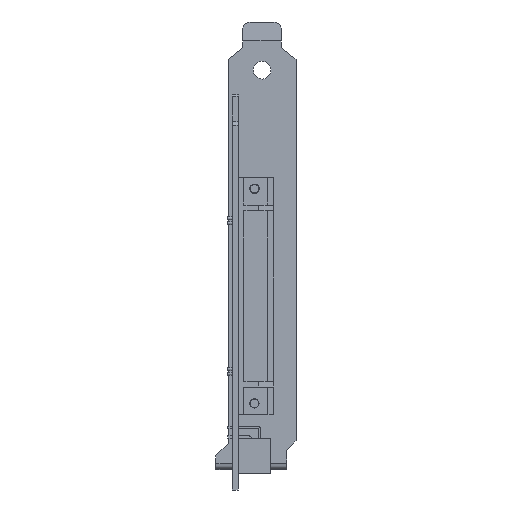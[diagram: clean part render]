
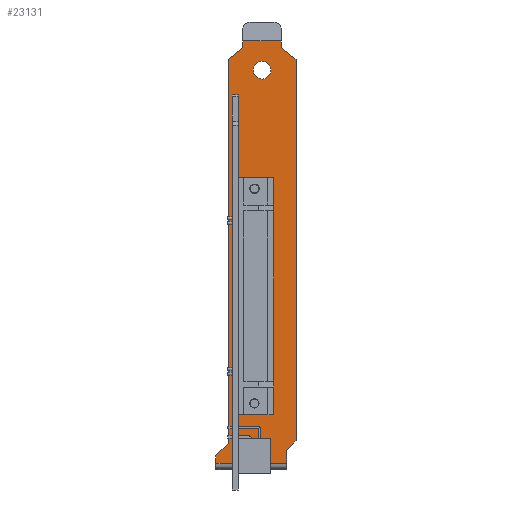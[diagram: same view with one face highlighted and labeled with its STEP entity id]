
A CAD part, front view. The second image highlights one B-rep face of the part: STEP entity #23131.
In plain terms, the highlighted planar face has unit normal (0, -1, 0).
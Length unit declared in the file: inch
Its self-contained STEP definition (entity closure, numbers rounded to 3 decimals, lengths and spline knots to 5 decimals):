
#85=DIRECTION('',(-1.,0.,0.));
#86=VECTOR('',#85,0.40551);
#87=CARTESIAN_POINT('',(0.43602,0.33,-3.203));
#88=LINE('',#87,#86);
#338=DIRECTION('',(1.,0.,0.));
#339=VECTOR('',#338,0.40551);
#340=CARTESIAN_POINT('',(0.0305,0.33,-0.687));
#341=LINE('',#340,#339);
#7335=DIRECTION('',(0.,0.,1.));
#7336=VECTOR('',#7335,2.516);
#7337=CARTESIAN_POINT('',(0.0305,0.33,-3.203));
#7338=LINE('',#7337,#7336);
#7339=DIRECTION('',(1.,0.,0.));
#7340=VECTOR('',#7339,0.412);
#7341=CARTESIAN_POINT('',(0.108,0.33,0.764));
#7342=LINE('',#7341,#7340);
#7343=DIRECTION('',(0.,0.,-1.));
#7344=VECTOR('',#7343,0.074);
#7345=CARTESIAN_POINT('',(0.52,0.33,0.764));
#7346=LINE('',#7345,#7344);
#7347=DIRECTION('',(-0.788,0.,0.616));
#7348=VECTOR('',#7347,0.1967);
#7349=CARTESIAN_POINT('',(0.675,0.33,0.5689));
#7350=LINE('',#7349,#7348);
#7351=DIRECTION('',(0.707,0.,0.707));
#7352=VECTOR('',#7351,0.14142);
#7353=CARTESIAN_POINT('',(0.575,0.33,-3.583));
#7354=LINE('',#7353,#7352);
#7355=DIRECTION('',(0.,0.,1.));
#7356=VECTOR('',#7355,0.137);
#7357=CARTESIAN_POINT('',(0.575,0.33,-3.72));
#7358=LINE('',#7357,#7356);
#7359=DIRECTION('',(-1.,0.,0.));
#7360=VECTOR('',#7359,0.75);
#7361=CARTESIAN_POINT('',(0.575,0.33,-3.72));
#7362=LINE('',#7361,#7360);
#7363=DIRECTION('',(-0.707,0.,-0.707));
#7364=VECTOR('',#7363,0.18102);
#7365=CARTESIAN_POINT('',(-0.047,0.33,-3.514));
#7366=LINE('',#7365,#7364);
#7367=DIRECTION('',(0.,0.,-1.));
#7368=VECTOR('',#7367,4.0829);
#7369=CARTESIAN_POINT('',(-0.047,0.33,0.5689));
#7370=LINE('',#7369,#7368);
#7371=DIRECTION('',(-0.788,0.,-0.616));
#7372=VECTOR('',#7371,0.1967);
#7373=CARTESIAN_POINT('',(0.108,0.33,0.69));
#7374=LINE('',#7373,#7372);
#7375=DIRECTION('',(0.,0.,-1.));
#7376=VECTOR('',#7375,0.074);
#7377=CARTESIAN_POINT('',(0.108,0.33,0.764));
#7378=LINE('',#7377,#7376);
#7379=CARTESIAN_POINT('',(0.314,0.33,0.453));
#7380=DIRECTION('',(0.,1.,0.));
#7381=DIRECTION('',(0.,0.,1.));
#7382=AXIS2_PLACEMENT_3D('',#7379,#7380,#7381);
#7384=CARTESIAN_POINT('',(0.314,0.33,0.453));
#7385=DIRECTION('',(0.,1.,0.));
#7386=DIRECTION('',(0.,0.,-1.));
#7387=AXIS2_PLACEMENT_3D('',#7384,#7385,#7386);
#7435=DIRECTION('',(0.,0.,1.));
#7436=VECTOR('',#7435,0.078);
#7437=CARTESIAN_POINT('',(-0.175,0.33,-3.72));
#7438=LINE('',#7437,#7436);
#7787=DIRECTION('',(0.,0.,1.));
#7788=VECTOR('',#7787,4.0519);
#7789=CARTESIAN_POINT('',(0.675,0.33,-3.483));
#7790=LINE('',#7789,#7788);
#8914=DIRECTION('',(0.,0.,1.));
#8915=VECTOR('',#8914,2.516);
#8916=CARTESIAN_POINT('',(0.43602,0.33,-3.203));
#8917=LINE('',#8916,#8915);
#10958=CARTESIAN_POINT('',(-0.175,0.33,-3.72));
#10960=VERTEX_POINT('',#10958);
#10961=CARTESIAN_POINT('',(0.575,0.33,-3.72));
#10963=VERTEX_POINT('',#10961);
#10965=CARTESIAN_POINT('',(0.575,0.33,-3.583));
#10966=VERTEX_POINT('',#10965);
#10967=CARTESIAN_POINT('',(0.675,0.33,-3.483));
#10968=VERTEX_POINT('',#10967);
#10969=CARTESIAN_POINT('',(0.108,0.33,0.69));
#10970=CARTESIAN_POINT('',(-0.047,0.33,0.5689));
#10971=VERTEX_POINT('',#10969);
#10972=VERTEX_POINT('',#10970);
#10973=CARTESIAN_POINT('',(-0.047,0.33,-3.514));
#10974=VERTEX_POINT('',#10973);
#10975=CARTESIAN_POINT('',(-0.175,0.33,-3.642));
#10976=VERTEX_POINT('',#10975);
#10977=CARTESIAN_POINT('',(0.675,0.33,0.5689));
#10978=CARTESIAN_POINT('',(0.52,0.33,0.69));
#10979=VERTEX_POINT('',#10977);
#10980=VERTEX_POINT('',#10978);
#11089=CARTESIAN_POINT('',(0.314,0.33,0.5465));
#11090=CARTESIAN_POINT('',(0.314,0.33,0.3595));
#11091=VERTEX_POINT('',#11089);
#11092=VERTEX_POINT('',#11090);
#11093=CARTESIAN_POINT('',(0.108,0.33,0.764));
#11094=VERTEX_POINT('',#11093);
#11095=CARTESIAN_POINT('',(0.52,0.33,0.764));
#11096=VERTEX_POINT('',#11095);
#11141=CARTESIAN_POINT('',(0.0305,0.33,-0.687));
#11142=CARTESIAN_POINT('',(0.43602,0.33,-0.687));
#11143=VERTEX_POINT('',#11141);
#11144=VERTEX_POINT('',#11142);
#11145=CARTESIAN_POINT('',(0.43602,0.33,-3.203));
#11146=CARTESIAN_POINT('',(0.0305,0.33,-3.203));
#11147=VERTEX_POINT('',#11145);
#11148=VERTEX_POINT('',#11146);
#23087=CARTESIAN_POINT('',(0.675,0.33,-3.72));
#23088=DIRECTION('',(0.,1.,0.));
#23089=DIRECTION('',(0.,0.,1.));
#23090=AXIS2_PLACEMENT_3D('',#23087,#23088,#23089);
#23091=PLANE('',#23090);
#23093=ORIENTED_EDGE('',*,*,#23092,.T.);
#23095=ORIENTED_EDGE('',*,*,#23094,.T.);
#23097=ORIENTED_EDGE('',*,*,#23096,.F.);
#23099=ORIENTED_EDGE('',*,*,#23098,.F.);
#23101=ORIENTED_EDGE('',*,*,#23100,.F.);
#23103=ORIENTED_EDGE('',*,*,#23102,.F.);
#23105=ORIENTED_EDGE('',*,*,#23104,.T.);
#23107=ORIENTED_EDGE('',*,*,#23106,.T.);
#23109=ORIENTED_EDGE('',*,*,#23108,.F.);
#23111=ORIENTED_EDGE('',*,*,#23110,.F.);
#23113=ORIENTED_EDGE('',*,*,#23112,.F.);
#23115=ORIENTED_EDGE('',*,*,#23114,.F.);
#23116=EDGE_LOOP('',(#23093,#23095,#23097,#23099,#23101,#23103,#23105,#23107,
#23109,#23111,#23113,#23115));
#23117=FACE_OUTER_BOUND('',#23116,.F.);
#23119=ORIENTED_EDGE('',*,*,#23118,.F.);
#23121=ORIENTED_EDGE('',*,*,#23120,.F.);
#23122=EDGE_LOOP('',(#23119,#23121));
#23123=FACE_BOUND('',#23122,.F.);
#23124=ORIENTED_EDGE('',*,*,#12697,.F.);
#23125=ORIENTED_EDGE('',*,*,#23079,.F.);
#23126=ORIENTED_EDGE('',*,*,#12197,.F.);
#23128=ORIENTED_EDGE('',*,*,#23127,.T.);
#23129=EDGE_LOOP('',(#23124,#23125,#23126,#23128));
#23130=FACE_BOUND('',#23129,.F.);
#23131=ADVANCED_FACE('',(#23117,#23123,#23130),#23091,.F.);
#7383=CIRCLE('',#7382,0.0935);
#7388=CIRCLE('',#7387,0.0935);
#12197=EDGE_CURVE('',#11147,#11148,#88,.T.);
#12697=EDGE_CURVE('',#11143,#11144,#341,.T.);
#23079=EDGE_CURVE('',#11148,#11143,#7338,.T.);
#23092=EDGE_CURVE('',#11094,#11096,#7342,.T.);
#23094=EDGE_CURVE('',#11096,#10980,#7346,.T.);
#23096=EDGE_CURVE('',#10979,#10980,#7350,.T.);
#23098=EDGE_CURVE('',#10968,#10979,#7790,.T.);
#23100=EDGE_CURVE('',#10966,#10968,#7354,.T.);
#23102=EDGE_CURVE('',#10963,#10966,#7358,.T.);
#23104=EDGE_CURVE('',#10963,#10960,#7362,.T.);
#23106=EDGE_CURVE('',#10960,#10976,#7438,.T.);
#23108=EDGE_CURVE('',#10974,#10976,#7366,.T.);
#23110=EDGE_CURVE('',#10972,#10974,#7370,.T.);
#23112=EDGE_CURVE('',#10971,#10972,#7374,.T.);
#23114=EDGE_CURVE('',#11094,#10971,#7378,.T.);
#23118=EDGE_CURVE('',#11091,#11092,#7383,.T.);
#23120=EDGE_CURVE('',#11092,#11091,#7388,.T.);
#23127=EDGE_CURVE('',#11147,#11144,#8917,.T.);
